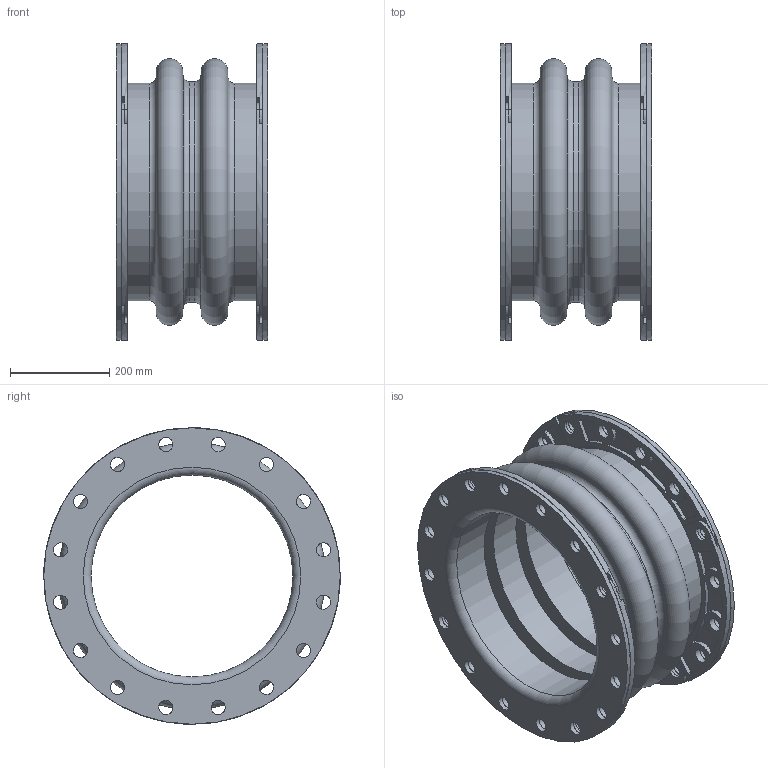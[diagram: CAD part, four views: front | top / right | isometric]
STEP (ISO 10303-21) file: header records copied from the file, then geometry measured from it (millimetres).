
FILE_DESCRIPTION(/* description */ (''),/* implementation_level */ '2;1');
FILE_NAME(/* name */ 'C:\001_Work\Designs\Mercer2014\MQInventor2014\RajR\500 Style\502\STP\502 16IDx12FF.stp',/* time_stamp */ '2016-03-16T15:04:31-04:00',/* author */ ('mquog'),/* organization */ (''),/* preprocessor_version */ 'ST-DEVELOPER v15.2',/* originating_system */ 'Autodesk Inventor 2014',/* authorisation */ '');
FILE_SCHEMA (('AUTOMOTIVE_DESIGN { 1 0 10303 214 3 1 1 }'));
Length unit declared in the file: centimetre
Products named in the file (1): 502 16IDx12FF
Bounding box: 304.8 x 596.9 x 596.9 mm (x, y, z)
Volume: 14608776.9 mm3; surface area: 2451333.8 mm2
Topology: 3 solids, 3 shells, 616 faces, 1700 edges, 1120 vertices
Faces by surface type: cylinder 416, plane 164, torus 28, cone 8
Full cylindrical faces by diameter (mm): 28.575 x72, 406.4 x3, 438.15 x2, 444.5 x1, 596.9 x2
Entity records: 20876 total; most frequent: CARTESIAN_POINT 3897, DIRECTION 3682, ORIENTED_EDGE 3184, EDGE_CURVE 1592, AXIS2_PLACEMENT_3D 1521, VERTEX_POINT 1112, CIRCLE 904, EDGE_LOOP 880
